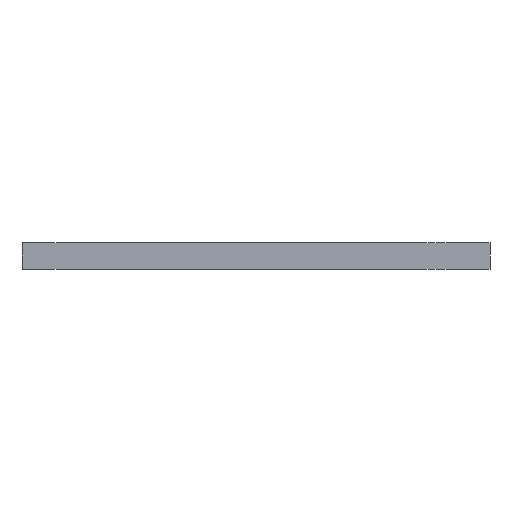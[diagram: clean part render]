
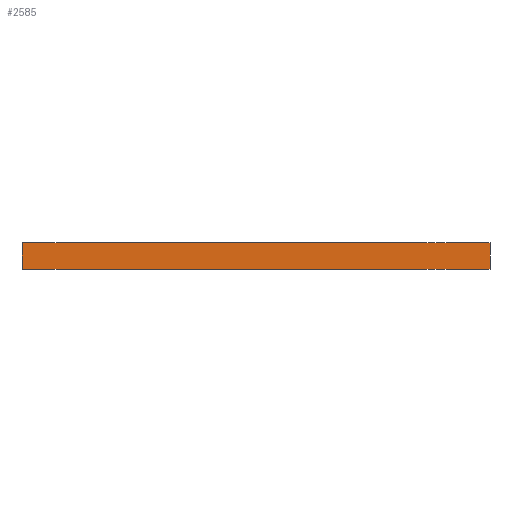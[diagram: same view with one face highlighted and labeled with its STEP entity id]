
A CAD part, front view. The second image highlights one B-rep face of the part: STEP entity #2585.
In plain terms, the highlighted planar face has unit normal (0, -1, 0).
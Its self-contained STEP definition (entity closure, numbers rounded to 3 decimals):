
#22 = VERTEX_POINT('',#23);
#23 = CARTESIAN_POINT('',(-13.1,-9.1,14.9));
#32 = PLANE('',#33);
#33 = AXIS2_PLACEMENT_3D('',#34,#35,#36);
#34 = CARTESIAN_POINT('',(-13.1,-9.1,13.4));
#35 = DIRECTION('',(1.,0.,0.));
#36 = DIRECTION('',(0.,0.,1.));
#44 = PLANE('',#45);
#45 = AXIS2_PLACEMENT_3D('',#46,#47,#48);
#46 = CARTESIAN_POINT('',(-13.1,-9.1,14.9));
#47 = DIRECTION('',(0.,0.,1.));
#48 = DIRECTION('',(1.,0.,0.));
#56 = EDGE_CURVE('',#57,#22,#59,.T.);
#57 = VERTEX_POINT('',#58);
#58 = CARTESIAN_POINT('',(-13.1,-9.1,13.4));
#59 = SURFACE_CURVE('',#60,(#64,#71),.PCURVE_S1.);
#60 = LINE('',#61,#62);
#61 = CARTESIAN_POINT('',(-13.1,-9.1,13.4));
#62 = VECTOR('',#63,1.);
#63 = DIRECTION('',(0.,0.,1.));
#64 = PCURVE('',#32,#65);
#65 = DEFINITIONAL_REPRESENTATION('',(#66),#70);
#66 = LINE('',#67,#68);
#67 = CARTESIAN_POINT('',(0.,0.));
#68 = VECTOR('',#69,1.);
#69 = DIRECTION('',(1.,0.));
#70 = ( GEOMETRIC_REPRESENTATION_CONTEXT(2) 
PARAMETRIC_REPRESENTATION_CONTEXT() REPRESENTATION_CONTEXT('2D SPACE',''
  ) );
#71 = PCURVE('',#72,#77);
#72 = PLANE('',#73);
#73 = AXIS2_PLACEMENT_3D('',#74,#75,#76);
#74 = CARTESIAN_POINT('',(-13.1,-9.1,13.4));
#75 = DIRECTION('',(0.,1.,0.));
#76 = DIRECTION('',(0.,0.,1.));
#77 = DEFINITIONAL_REPRESENTATION('',(#78),#82);
#78 = LINE('',#79,#80);
#79 = CARTESIAN_POINT('',(0.,0.));
#80 = VECTOR('',#81,1.);
#81 = DIRECTION('',(1.,0.));
#82 = ( GEOMETRIC_REPRESENTATION_CONTEXT(2) 
PARAMETRIC_REPRESENTATION_CONTEXT() REPRESENTATION_CONTEXT('2D SPACE',''
  ) );
#100 = PLANE('',#101);
#101 = AXIS2_PLACEMENT_3D('',#102,#103,#104);
#102 = CARTESIAN_POINT('',(-13.1,-9.1,13.4));
#103 = DIRECTION('',(0.,0.,1.));
#104 = DIRECTION('',(1.,0.,0.));
#140 = EDGE_CURVE('',#22,#141,#143,.T.);
#141 = VERTEX_POINT('',#142);
#142 = CARTESIAN_POINT('',(13.1,-9.1,14.9));
#143 = SURFACE_CURVE('',#144,(#148,#155),.PCURVE_S1.);
#144 = LINE('',#145,#146);
#145 = CARTESIAN_POINT('',(-13.1,-9.1,14.9));
#146 = VECTOR('',#147,1.);
#147 = DIRECTION('',(1.,0.,0.));
#148 = PCURVE('',#44,#149);
#149 = DEFINITIONAL_REPRESENTATION('',(#150),#154);
#150 = LINE('',#151,#152);
#151 = CARTESIAN_POINT('',(0.,0.));
#152 = VECTOR('',#153,1.);
#153 = DIRECTION('',(1.,0.));
#154 = ( GEOMETRIC_REPRESENTATION_CONTEXT(2) 
PARAMETRIC_REPRESENTATION_CONTEXT() REPRESENTATION_CONTEXT('2D SPACE',''
  ) );
#155 = PCURVE('',#72,#156);
#156 = DEFINITIONAL_REPRESENTATION('',(#157),#161);
#157 = LINE('',#158,#159);
#158 = CARTESIAN_POINT('',(1.5,0.));
#159 = VECTOR('',#160,1.);
#160 = DIRECTION('',(0.,1.));
#161 = ( GEOMETRIC_REPRESENTATION_CONTEXT(2) 
PARAMETRIC_REPRESENTATION_CONTEXT() REPRESENTATION_CONTEXT('2D SPACE',''
  ) );
#179 = PLANE('',#180);
#180 = AXIS2_PLACEMENT_3D('',#181,#182,#183);
#181 = CARTESIAN_POINT('',(13.1,-9.1,13.4));
#182 = DIRECTION('',(1.,0.,0.));
#183 = DIRECTION('',(0.,0.,1.));
#1521 = EDGE_CURVE('',#57,#1522,#1524,.T.);
#1522 = VERTEX_POINT('',#1523);
#1523 = CARTESIAN_POINT('',(13.1,-9.1,13.4));
#1524 = SURFACE_CURVE('',#1525,(#1529,#1536),.PCURVE_S1.);
#1525 = LINE('',#1526,#1527);
#1526 = CARTESIAN_POINT('',(-13.1,-9.1,13.4));
#1527 = VECTOR('',#1528,1.);
#1528 = DIRECTION('',(1.,0.,0.));
#1529 = PCURVE('',#100,#1530);
#1530 = DEFINITIONAL_REPRESENTATION('',(#1531),#1535);
#1531 = LINE('',#1532,#1533);
#1532 = CARTESIAN_POINT('',(0.,0.));
#1533 = VECTOR('',#1534,1.);
#1534 = DIRECTION('',(1.,0.));
#1535 = ( GEOMETRIC_REPRESENTATION_CONTEXT(2) 
PARAMETRIC_REPRESENTATION_CONTEXT() REPRESENTATION_CONTEXT('2D SPACE',''
  ) );
#1536 = PCURVE('',#72,#1537);
#1537 = DEFINITIONAL_REPRESENTATION('',(#1538),#1542);
#1538 = LINE('',#1539,#1540);
#1539 = CARTESIAN_POINT('',(0.,0.));
#1540 = VECTOR('',#1541,1.);
#1541 = DIRECTION('',(0.,1.));
#1542 = ( GEOMETRIC_REPRESENTATION_CONTEXT(2) 
PARAMETRIC_REPRESENTATION_CONTEXT() REPRESENTATION_CONTEXT('2D SPACE',''
  ) );
#2585 = ADVANCED_FACE('',(#2586),#72,.F.);
#2586 = FACE_BOUND('',#2587,.F.);
#2587 = EDGE_LOOP('',(#2588,#2589,#2590,#2591));
#2588 = ORIENTED_EDGE('',*,*,#1521,.F.);
#2589 = ORIENTED_EDGE('',*,*,#56,.T.);
#2590 = ORIENTED_EDGE('',*,*,#140,.T.);
#2591 = ORIENTED_EDGE('',*,*,#2592,.F.);
#2592 = EDGE_CURVE('',#1522,#141,#2593,.T.);
#2593 = SURFACE_CURVE('',#2594,(#2598,#2605),.PCURVE_S1.);
#2594 = LINE('',#2595,#2596);
#2595 = CARTESIAN_POINT('',(13.1,-9.1,13.4));
#2596 = VECTOR('',#2597,1.);
#2597 = DIRECTION('',(0.,0.,1.));
#2598 = PCURVE('',#72,#2599);
#2599 = DEFINITIONAL_REPRESENTATION('',(#2600),#2604);
#2600 = LINE('',#2601,#2602);
#2601 = CARTESIAN_POINT('',(0.,26.2));
#2602 = VECTOR('',#2603,1.);
#2603 = DIRECTION('',(1.,0.));
#2604 = ( GEOMETRIC_REPRESENTATION_CONTEXT(2) 
PARAMETRIC_REPRESENTATION_CONTEXT() REPRESENTATION_CONTEXT('2D SPACE',''
  ) );
#2605 = PCURVE('',#179,#2606);
#2606 = DEFINITIONAL_REPRESENTATION('',(#2607),#2611);
#2607 = LINE('',#2608,#2609);
#2608 = CARTESIAN_POINT('',(0.,0.));
#2609 = VECTOR('',#2610,1.);
#2610 = DIRECTION('',(1.,0.));
#2611 = ( GEOMETRIC_REPRESENTATION_CONTEXT(2) 
PARAMETRIC_REPRESENTATION_CONTEXT() REPRESENTATION_CONTEXT('2D SPACE',''
  ) );
